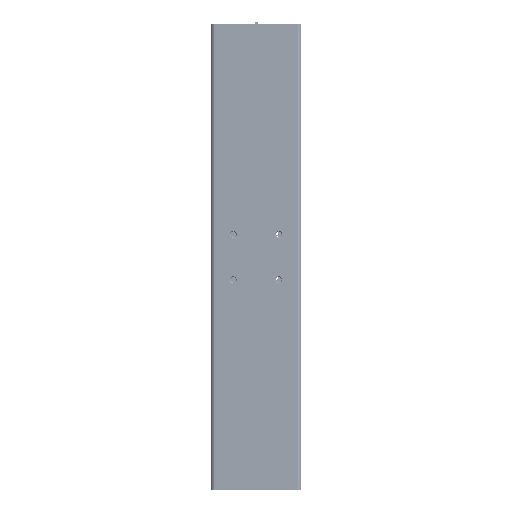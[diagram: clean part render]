
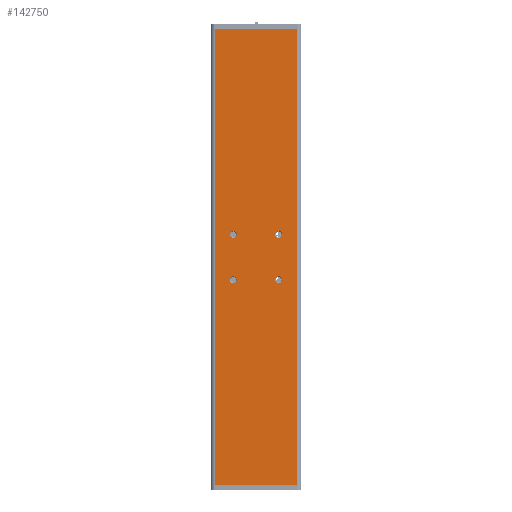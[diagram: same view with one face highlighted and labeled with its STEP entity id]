
A CAD part, left-side view. The second image highlights one B-rep face of the part: STEP entity #142750.
In plain terms, the highlighted planar face has unit normal (-1, 0, 0).
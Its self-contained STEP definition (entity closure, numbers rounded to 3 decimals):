
#3216 = EDGE_CURVE ( 'NONE', #244582, #129247, #59550, .T. ) ;
#4315 = AXIS2_PLACEMENT_3D ( 'NONE', #31010, #89852, #28415 ) ;
#10908 = AXIS2_PLACEMENT_3D ( 'NONE', #184120, #37910, #242132 ) ;
#12202 = FACE_OUTER_BOUND ( 'NONE', #166482, .T. ) ;
#14017 = DIRECTION ( 'NONE',  ( 0., 0., 1. ) ) ;
#15065 = CARTESIAN_POINT ( 'NONE',  ( -67.5, -10., -11.525 ) ) ;
#16360 = CIRCLE ( 'NONE', #26049, 1.525 ) ;
#18663 = CARTESIAN_POINT ( 'NONE',  ( -67.5, 10., -8.475 ) ) ;
#19852 = LINE ( 'NONE', #30404, #61184 ) ;
#23545 = ORIENTED_EDGE ( 'NONE', *, *, #236169, .F. ) ;
#24239 = VECTOR ( 'NONE', #151856, 1000. ) ;
#25388 = VERTEX_POINT ( 'NONE', #191490 ) ;
#26049 = AXIS2_PLACEMENT_3D ( 'NONE', #116393, #137735, #14017 ) ;
#26458 = AXIS2_PLACEMENT_3D ( 'NONE', #82467, #225102, #242155 ) ;
#27228 = AXIS2_PLACEMENT_3D ( 'NONE', #35346, #97692, #236878 ) ;
#28415 = DIRECTION ( 'NONE',  ( 0., 0., 1. ) ) ;
#29179 = EDGE_CURVE ( 'NONE', #244876, #25388, #119483, .T. ) ;
#29942 = CIRCLE ( 'NONE', #177745, 1.525 ) ;
#30404 = CARTESIAN_POINT ( 'NONE',  ( -67.5, -18., 100.5 ) ) ;
#31010 = CARTESIAN_POINT ( 'NONE',  ( -67.5, 10., -10. ) ) ;
#33954 = ORIENTED_EDGE ( 'NONE', *, *, #154237, .F. ) ;
#34653 = CARTESIAN_POINT ( 'NONE',  ( -67.5, -10., 11.525 ) ) ;
#35346 = CARTESIAN_POINT ( 'NONE',  ( -67.5, -10., 10. ) ) ;
#36814 = DIRECTION ( 'NONE',  ( 0., 0., 1. ) ) ;
#37628 = FACE_BOUND ( 'NONE', #143406, .T. ) ;
#37910 = DIRECTION ( 'NONE',  ( -1., 0., 0. ) ) ;
#38748 = DIRECTION ( 'NONE',  ( -1., 0., 0. ) ) ;
#41829 = CARTESIAN_POINT ( 'NONE',  ( -67.5, 18., -100.5 ) ) ;
#45842 = ORIENTED_EDGE ( 'NONE', *, *, #48283, .F. ) ;
#45955 = CIRCLE ( 'NONE', #180581, 1.525 ) ;
#48283 = EDGE_CURVE ( 'NONE', #99781, #75415, #16360, .T. ) ;
#52004 = CARTESIAN_POINT ( 'NONE',  ( -67.5, -18., 100.5 ) ) ;
#58914 = CARTESIAN_POINT ( 'NONE',  ( -67.5, 10., 8.475 ) ) ;
#59550 = LINE ( 'NONE', #159037, #161633 ) ;
#60910 = ORIENTED_EDGE ( 'NONE', *, *, #197025, .T. ) ;
#61008 = DIRECTION ( 'NONE',  ( 0., 0., 1. ) ) ;
#61184 = VECTOR ( 'NONE', #173042, 1000. ) ;
#63760 = VERTEX_POINT ( 'NONE', #34653 ) ;
#64842 = VERTEX_POINT ( 'NONE', #92654 ) ;
#66628 = DIRECTION ( 'NONE',  ( 1., 0., 0. ) ) ;
#69647 = FACE_BOUND ( 'NONE', #260404, .T. ) ;
#69914 = CARTESIAN_POINT ( 'NONE',  ( -67.5, 17., -100.5 ) ) ;
#75415 = VERTEX_POINT ( 'NONE', #139308 ) ;
#77195 = CARTESIAN_POINT ( 'NONE',  ( -67.5, 10., 11.525 ) ) ;
#79752 = AXIS2_PLACEMENT_3D ( 'NONE', #168294, #66628, #154776 ) ;
#82467 = CARTESIAN_POINT ( 'NONE',  ( -67.5, 10., 10. ) ) ;
#83298 = CIRCLE ( 'NONE', #4315, 1.525 ) ;
#89852 = DIRECTION ( 'NONE',  ( -1., 0., 0. ) ) ;
#89942 = ORIENTED_EDGE ( 'NONE', *, *, #263025, .F. ) ;
#92283 = VERTEX_POINT ( 'NONE', #58914 ) ;
#92400 = DIRECTION ( 'NONE',  ( 0., -1., 0. ) ) ;
#92654 = CARTESIAN_POINT ( 'NONE',  ( -67.5, -10., 8.475 ) ) ;
#97692 = DIRECTION ( 'NONE',  ( -1., 0., 0. ) ) ;
#99781 = VERTEX_POINT ( 'NONE', #18663 ) ;
#105883 = EDGE_LOOP ( 'NONE', ( #89942, #252176 ) ) ;
#109259 = LINE ( 'NONE', #193177, #220834 ) ;
#116393 = CARTESIAN_POINT ( 'NONE',  ( -67.5, 10., -10. ) ) ;
#118323 = EDGE_CURVE ( 'NONE', #129247, #184313, #135920, .T. ) ;
#119483 = CIRCLE ( 'NONE', #127446, 1.525 ) ;
#127446 = AXIS2_PLACEMENT_3D ( 'NONE', #202502, #223920, #262211 ) ;
#129247 = VERTEX_POINT ( 'NONE', #41829 ) ;
#130715 = PLANE ( 'NONE',  #79752 ) ;
#130778 = ORIENTED_EDGE ( 'NONE', *, *, #3216, .T. ) ;
#132272 = CIRCLE ( 'NONE', #10908, 1.525 ) ;
#135920 = LINE ( 'NONE', #69914, #24239 ) ;
#137735 = DIRECTION ( 'NONE',  ( -1., 0., 0. ) ) ;
#138155 = CIRCLE ( 'NONE', #27228, 1.525 ) ;
#139308 = CARTESIAN_POINT ( 'NONE',  ( -67.5, 10., -11.525 ) ) ;
#142750 = ADVANCED_FACE ( 'NONE', ( #69647, #193934, #12202, #165288, #37628 ), #130715, .F. ) ;
#143406 = EDGE_LOOP ( 'NONE', ( #253205, #23545 ) ) ;
#147184 = ORIENTED_EDGE ( 'NONE', *, *, #170386, .F. ) ;
#149572 = ORIENTED_EDGE ( 'NONE', *, *, #118323, .T. ) ;
#151856 = DIRECTION ( 'NONE',  ( 0., -1., 0. ) ) ;
#154237 = EDGE_CURVE ( 'NONE', #64842, #63760, #45955, .T. ) ;
#154776 = DIRECTION ( 'NONE',  ( 0., 0., -1. ) ) ;
#159037 = CARTESIAN_POINT ( 'NONE',  ( -67.5, 18., 100.5 ) ) ;
#161633 = VECTOR ( 'NONE', #240242, 1000. ) ;
#165288 = FACE_BOUND ( 'NONE', #241453, .T. ) ;
#166482 = EDGE_LOOP ( 'NONE', ( #147184, #130778, #149572, #60910 ) ) ;
#168294 = CARTESIAN_POINT ( 'NONE',  ( -67.5, 17., 100.5 ) ) ;
#170386 = EDGE_CURVE ( 'NONE', #244582, #201961, #109259, .T. ) ;
#170515 = VERTEX_POINT ( 'NONE', #77195 ) ;
#173042 = DIRECTION ( 'NONE',  ( 0., 0., 1. ) ) ;
#177745 = AXIS2_PLACEMENT_3D ( 'NONE', #222251, #220475, #36814 ) ;
#180581 = AXIS2_PLACEMENT_3D ( 'NONE', #263374, #38748, #61008 ) ;
#184120 = CARTESIAN_POINT ( 'NONE',  ( -67.5, 10., 10. ) ) ;
#184313 = VERTEX_POINT ( 'NONE', #258935 ) ;
#188042 = CARTESIAN_POINT ( 'NONE',  ( -67.5, 18., 100.5 ) ) ;
#188997 = EDGE_CURVE ( 'NONE', #63760, #64842, #138155, .T. ) ;
#191490 = CARTESIAN_POINT ( 'NONE',  ( -67.5, -10., -8.475 ) ) ;
#193177 = CARTESIAN_POINT ( 'NONE',  ( -67.5, 17., 100.5 ) ) ;
#193934 = FACE_BOUND ( 'NONE', #105883, .T. ) ;
#197025 = EDGE_CURVE ( 'NONE', #184313, #201961, #19852, .T. ) ;
#198294 = ORIENTED_EDGE ( 'NONE', *, *, #188997, .F. ) ;
#201961 = VERTEX_POINT ( 'NONE', #52004 ) ;
#202502 = CARTESIAN_POINT ( 'NONE',  ( -67.5, -10., -10. ) ) ;
#203297 = EDGE_CURVE ( 'NONE', #170515, #92283, #243729, .T. ) ;
#214773 = EDGE_CURVE ( 'NONE', #75415, #99781, #83298, .T. ) ;
#220475 = DIRECTION ( 'NONE',  ( -1., 0., 0. ) ) ;
#220834 = VECTOR ( 'NONE', #92400, 1000. ) ;
#222251 = CARTESIAN_POINT ( 'NONE',  ( -67.5, -10., -10. ) ) ;
#223920 = DIRECTION ( 'NONE',  ( -1., 0., 0. ) ) ;
#225102 = DIRECTION ( 'NONE',  ( -1., 0., 0. ) ) ;
#236169 = EDGE_CURVE ( 'NONE', #92283, #170515, #132272, .T. ) ;
#236878 = DIRECTION ( 'NONE',  ( 0., 0., 1. ) ) ;
#240242 = DIRECTION ( 'NONE',  ( 0., 0., -1. ) ) ;
#241453 = EDGE_LOOP ( 'NONE', ( #198294, #33954 ) ) ;
#242132 = DIRECTION ( 'NONE',  ( 0., 0., 1. ) ) ;
#242155 = DIRECTION ( 'NONE',  ( 0., 0., 1. ) ) ;
#243729 = CIRCLE ( 'NONE', #26458, 1.525 ) ;
#244582 = VERTEX_POINT ( 'NONE', #188042 ) ;
#244876 = VERTEX_POINT ( 'NONE', #15065 ) ;
#252176 = ORIENTED_EDGE ( 'NONE', *, *, #29179, .F. ) ;
#253205 = ORIENTED_EDGE ( 'NONE', *, *, #203297, .F. ) ;
#257034 = ORIENTED_EDGE ( 'NONE', *, *, #214773, .F. ) ;
#258935 = CARTESIAN_POINT ( 'NONE',  ( -67.5, -18., -100.5 ) ) ;
#260404 = EDGE_LOOP ( 'NONE', ( #45842, #257034 ) ) ;
#262211 = DIRECTION ( 'NONE',  ( 0., 0., 1. ) ) ;
#263025 = EDGE_CURVE ( 'NONE', #25388, #244876, #29942, .T. ) ;
#263374 = CARTESIAN_POINT ( 'NONE',  ( -67.5, -10., 10. ) ) ;
